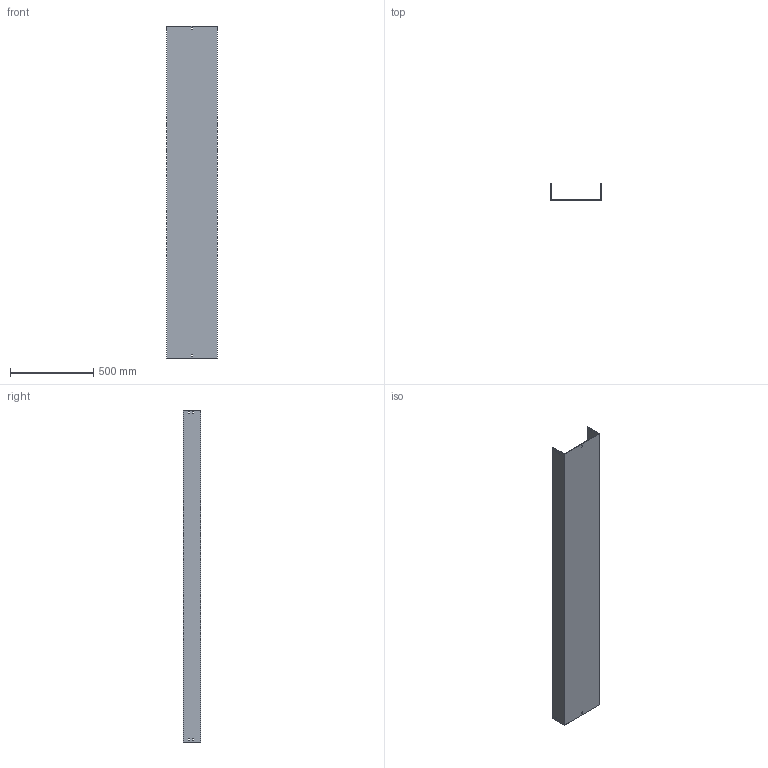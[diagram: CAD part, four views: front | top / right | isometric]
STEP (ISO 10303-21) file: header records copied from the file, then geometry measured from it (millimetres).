
FILE_DESCRIPTION (( 'STEP AP214' ), '1' );
FILE_NAME ('03F2D300.step', '2025-02-21T13:15:56', ( '' ), ( '' ), 'SwSTEP 2.0', 'SolidWorks 2023', '' );
FILE_SCHEMA (( 'AUTOMOTIVE_DESIGN' ));
Length unit declared in the file: millimetre
Products named in the file (1): 03F2D300
Bounding box: 304 x 104 x 2000 mm (x, y, z)
Volume: 3532630.5 mm3; surface area: 2037350 mm2
Topology: 1 solids, 1 shells, 50 faces, 144 edges, 96 vertices
Faces by surface type: plane 50
Entity records: 1671 total; most frequent: CARTESIAN_POINT 291, ORIENTED_EDGE 288, DIRECTION 246, LINE 144, EDGE_CURVE 144, VECTOR 144, VERTEX_POINT 96, EDGE_LOOP 70
